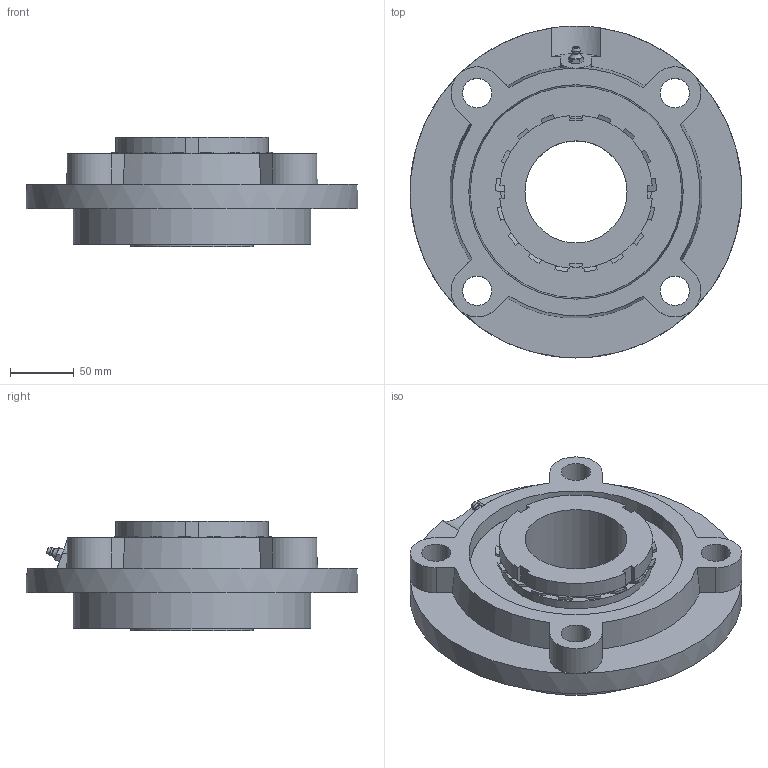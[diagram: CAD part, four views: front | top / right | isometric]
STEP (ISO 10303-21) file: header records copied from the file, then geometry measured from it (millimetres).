
FILE_DESCRIPTION((''),'2;1');
FILE_NAME('\\Ts-tgl068\j-cad-d-base\00.3DCADデータ作成フォルダ\02.フランジ形\UKFCX\UKFCX18+H.stp','2014-12-10T08:25:34',('btec_1106_2'),(''),'Autodesk Inventor 2012','Autodesk Inventor 2012','');
FILE_SCHEMA(('AUTOMOTIVE_DESIGN { 1 0 10303 214 1 1 1 1 }'));
Length unit declared in the file: millimetre
Products named in the file (4): UKFCX00+H; FCX18; UKX18+H; G1
Assembly tree (3 placements, depth 2):
  UKFCX00+H
    FCX18
    UKX18+H
    G1
Bounding box: 260 x 260 x 86 mm (x, y, z)
Volume: 1817544.1 mm3; surface area: 265423.2 mm2
Topology: 3 solids, 3 shells, 206 faces, 525 edges, 333 vertices
Faces by surface type: plane 90, cylinder 56, cone 54, sphere 4, torus 2
Full cylindrical faces by diameter (mm): 8.566 x1, 9.728 x1, 23 x4, 80 x1, 90 x1, 118 x2, 186 x1, 260 x1
Entity records: 6169 total; most frequent: CARTESIAN_POINT 1339, ORIENTED_EDGE 992, DIRECTION 988, EDGE_CURVE 496, AXIS2_PLACEMENT_3D 399, VERTEX_POINT 326, EDGE_LOOP 252, FACE_OUTER_BOUND 206
